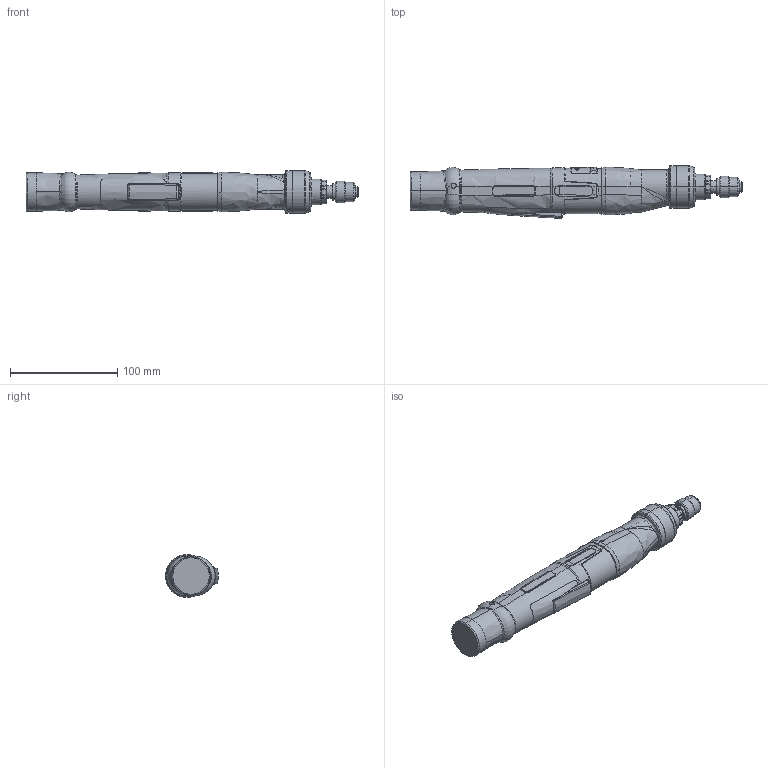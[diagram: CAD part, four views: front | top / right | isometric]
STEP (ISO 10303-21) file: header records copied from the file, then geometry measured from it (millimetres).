
FILE_DESCRIPTION (( 'STEP AP214' ), '1' );
FILE_NAME ('70141255_HSXK1003ZH14P.STEP', '2021-12-22T06:36:59', ( '' ), ( '' ), 'SwSTEP 2.0', 'SolidWorks 2020', '' );
FILE_SCHEMA (( 'AUTOMOTIVE_DESIGN' ));
Length unit declared in the file: millimetre
Products named in the file (5): 70141240; 70141199; 70141255_HSXK1003ZH14P; 70141210; 70141245
Assembly tree (4 placements, depth 2):
  70141255_HSXK1003ZH14P
    70141199
    70141210
    70141240
    70141245
Bounding box: 310.2 x 49.33 x 40 mm (x, y, z)
Volume: 314623.8 mm3; surface area: 69870.4 mm2
Topology: 4 solids, 5 shells, 1026 faces, 2615 edges, 1625 vertices
Faces by surface type: cylinder 363, bspline 271, plane 201, cone 87, torus 83, sphere 21
Entity records: 52697 total; most frequent: CARTESIAN_POINT 29654, ORIENTED_EDGE 5186, DIRECTION 4257, EDGE_CURVE 2593, AXIS2_PLACEMENT_3D 1768, VERTEX_POINT 1623, EDGE_LOOP 1084, ADVANCED_FACE 1026
